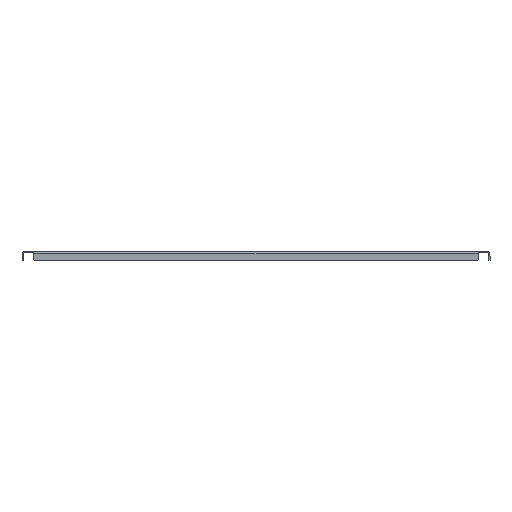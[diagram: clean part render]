
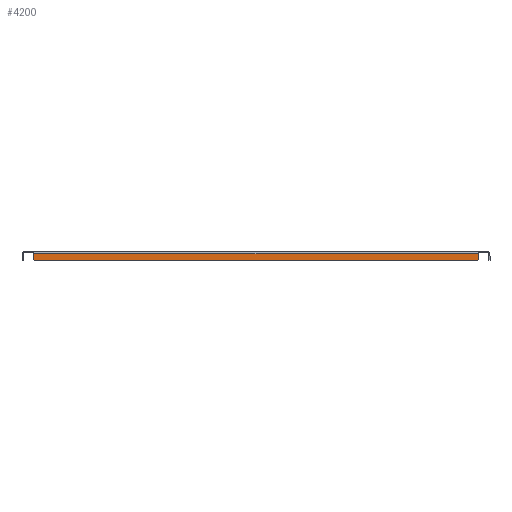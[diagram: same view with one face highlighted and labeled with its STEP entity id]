
A CAD part, left-side view. The second image highlights one B-rep face of the part: STEP entity #4200.
In plain terms, the highlighted planar face has unit normal (-1, 0, 0).
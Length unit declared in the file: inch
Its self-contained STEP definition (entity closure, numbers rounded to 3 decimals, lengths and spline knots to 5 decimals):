
#244 = ORIENTED_EDGE ( 'NONE', *, *, #882, .F. ) ;
#245 = ORIENTED_EDGE ( 'NONE', *, *, #894, .T. ) ;
#246 = ORIENTED_EDGE ( 'NONE', *, *, #891, .F. ) ;
#247 = ORIENTED_EDGE ( 'NONE', *, *, #895, .T. ) ;
#248 = ORIENTED_EDGE ( 'NONE', *, *, #893, .F. ) ;
#249 = ORIENTED_EDGE ( 'NONE', *, *, #887, .T. ) ;
#882 = EDGE_CURVE ( 'NONE', #2671, #2628, #3607, .T. ) ;
#887 = EDGE_CURVE ( 'NONE', #2635, #2628, #3599, .T. ) ;
#891 = EDGE_CURVE ( 'NONE', #2694, #2690, #3589, .T. ) ;
#893 = EDGE_CURVE ( 'NONE', #2635, #2682, #3585, .T. ) ;
#894 = EDGE_CURVE ( 'NONE', #2671, #2690, #3583, .T. ) ;
#895 = EDGE_CURVE ( 'NONE', #2694, #2682, #3581, .T. ) ;
#994 = CARTESIAN_POINT ( 'NONE',  ( -17.1, -19.024, -0.653 ) ) ;
#996 = CARTESIAN_POINT ( 'NONE',  ( -17.1, 19.024, -0.653 ) ) ;
#1004 = CARTESIAN_POINT ( 'NONE',  ( -17.1, -19.084, -0.593 ) ) ;
#1013 = CARTESIAN_POINT ( 'NONE',  ( -17.1, 19.084, -0.593 ) ) ;
#1048 = CARTESIAN_POINT ( 'NONE',  ( -17.1, -19.084, -0.076 ) ) ;
#1053 = CARTESIAN_POINT ( 'NONE',  ( -17.1, 19.084, -0.076 ) ) ;
#1123 = DIRECTION ( 'NONE',  ( 0., 0., 1. ) ) ;
#1124 = DIRECTION ( 'NONE',  ( -1., 0., 0. ) ) ;
#1127 = PLANE ( 'NONE',  #2082 ) ;
#1131 = CARTESIAN_POINT ( 'NONE',  ( -17.1, 19.084, 0. ) ) ;
#2082 = AXIS2_PLACEMENT_3D ( 'NONE', #1131, #1124, #1123 ) ;
#2376 = FACE_OUTER_BOUND ( 'NONE', #3339, .T. ) ;
#2628 = VERTEX_POINT ( 'NONE', #1053 ) ;
#2635 = VERTEX_POINT ( 'NONE', #1048 ) ;
#2671 = VERTEX_POINT ( 'NONE', #1013 ) ;
#2682 = VERTEX_POINT ( 'NONE', #1004 ) ;
#2690 = VERTEX_POINT ( 'NONE', #996 ) ;
#2694 = VERTEX_POINT ( 'NONE', #994 ) ;
#3339 = EDGE_LOOP ( 'NONE', ( #244, #245, #246, #247, #248, #249 ) ) ;
#3580 = VECTOR ( 'NONE', #4342, 39.37008 ) ;
#3581 = LINE ( 'NONE', #4345, #3580 ) ;
#3582 = VECTOR ( 'NONE', #4346, 39.37008 ) ;
#3583 = LINE ( 'NONE', #4347, #3582 ) ;
#3584 = VECTOR ( 'NONE', #4348, 39.37008 ) ;
#3585 = LINE ( 'NONE', #4349, #3584 ) ;
#3588 = VECTOR ( 'NONE', #4354, 39.37008 ) ;
#3589 = LINE ( 'NONE', #4355, #3588 ) ;
#3597 = VECTOR ( 'NONE', #4366, 39.37008 ) ;
#3599 = LINE ( 'NONE', #4377, #3597 ) ;
#3605 = VECTOR ( 'NONE', #4380, 39.37008 ) ;
#3607 = LINE ( 'NONE', #4397, #3605 ) ;
#4200 = ADVANCED_FACE ( 'NONE', ( #2376 ), #1127, .T. ) ;
#4342 = DIRECTION ( 'NONE',  ( 0., -0.707, 0.707 ) ) ;
#4345 = CARTESIAN_POINT ( 'NONE',  ( -17.1, -0.2965, -19.3805 ) ) ;
#4346 = DIRECTION ( 'NONE',  ( 0., -0.707, -0.707 ) ) ;
#4347 = CARTESIAN_POINT ( 'NONE',  ( -17.1, 19.3805, -0.2965 ) ) ;
#4348 = DIRECTION ( 'NONE',  ( 0., 0., -1. ) ) ;
#4349 = CARTESIAN_POINT ( 'NONE',  ( -17.1, -19.084, -0.653 ) ) ;
#4354 = DIRECTION ( 'NONE',  ( 0., 1., 0. ) ) ;
#4355 = CARTESIAN_POINT ( 'NONE',  ( -17.1, 19.084, -0.653 ) ) ;
#4366 = DIRECTION ( 'NONE',  ( 0., 1., 0. ) ) ;
#4377 = CARTESIAN_POINT ( 'NONE',  ( -17.1, 19.084, -0.076 ) ) ;
#4380 = DIRECTION ( 'NONE',  ( 0., 0., 1. ) ) ;
#4397 = CARTESIAN_POINT ( 'NONE',  ( -17.1, 19.084, 0. ) ) ;
